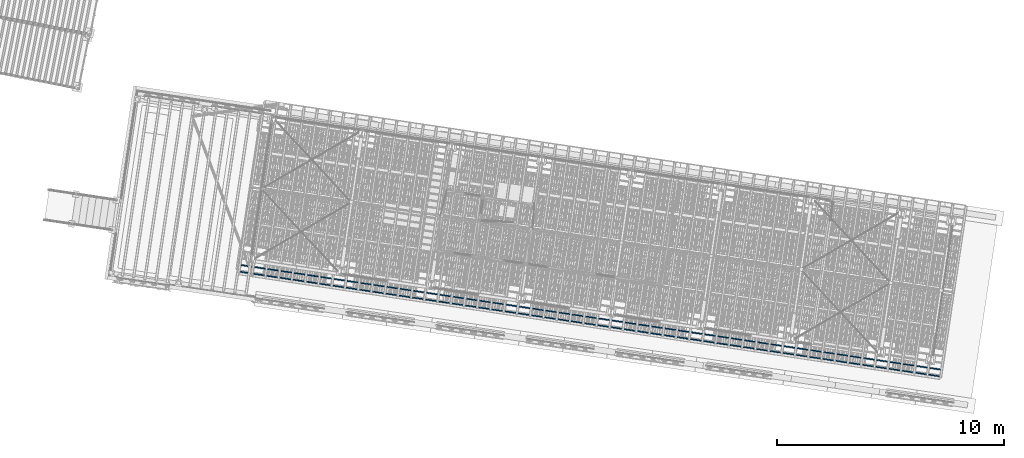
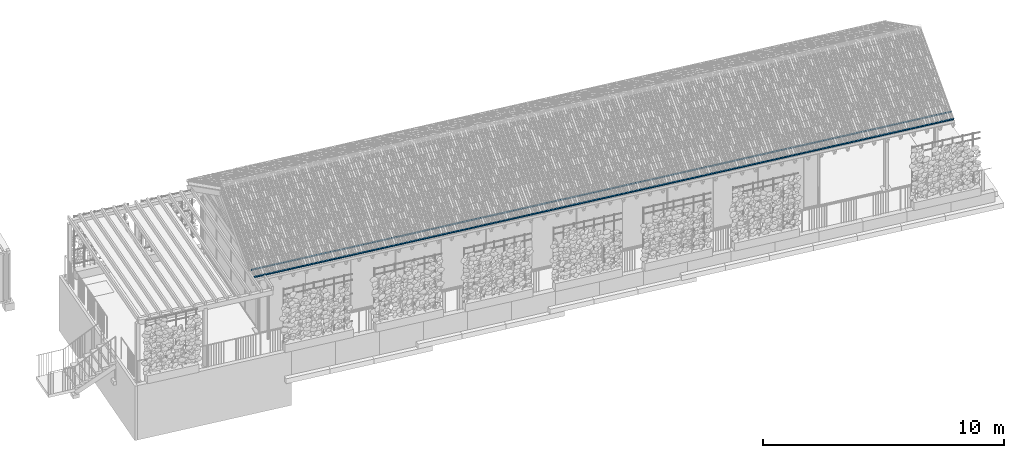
# One storey, part 72 of 128: 2 members, 1 element without a shape of its own.
"""IFC4 building model written with IfcOpenShell, lengths in metres."""

import ifcopenshell
import ifcopenshell.guid

model = None  # the IFC model being written
_history = None  # IfcOwnerHistory: only IFC2X3 demands one
_inside = {}  # id of a spatial element -> (the spatial element, [elements in it])
_under = {}  # id of a project, library or spatial element -> (it, [spatial elements below it])
_declared = {}  # id of a project -> (the project, [libraries it declares])
_typed = {}  # id of a type object -> (the type object, [elements of that type])
_made_of = {}  # id of a material, layer set ... -> (it, [elements and type objects made of it])


def new_model(schema):
    """Start an empty IFC model of exactly this schema.

    Asked for "IFC4X3", IfcOpenShell would pick the latest addendum, in which some entities
    have other attributes; the version numbers below select the first issue.
    IFC2X3 requires an IfcOwnerHistory on every rooted entity: one is made here for all.
    """
    global model, _history
    if schema == "IFC4X3":
        model = ifcopenshell.file(schema_version=(4, 3, 0, 0))
    else:
        model = ifcopenshell.file(schema=schema)
    _inside.clear()
    _under.clear()
    _declared.clear()
    _typed.clear()
    _made_of.clear()
    _history = None
    if model.schema == "IFC2X3":
        org = make("IfcOrganization", Name="unknown")
        user = make(
            "IfcPersonAndOrganization",
            ThePerson=make("IfcPerson", FamilyName="unknown"),
            TheOrganization=org,
        )
        app = make(
            "IfcApplication",
            ApplicationDeveloper=org,
            Version="unknown",
            ApplicationFullName="unknown",
            ApplicationIdentifier="unknown",
        )
        _history = make(
            "IfcOwnerHistory",
            OwningUser=user,
            OwningApplication=app,
            ChangeAction="ADDED",
            CreationDate=0,
        )
    return model


def make(cls, **values):
    """One entity of the class cls with the attributes given. An attribute that is None is left unset."""
    return model.create_entity(
        cls, **{name: value for name, value in values.items() if value is not None}
    )


def rooted(cls, **values):
    """An entity with a GlobalId (a new one), such as an element, a storey or a relation."""
    return make(cls, GlobalId=ifcopenshell.guid.new(), OwnerHistory=_history, **values)


def si_unit(unit_type, name, prefix=None):
    """IfcSIUnit, for example si_unit("LENGTHUNIT", "METRE", prefix="MILLI")."""
    return make("IfcSIUnit", UnitType=unit_type, Prefix=prefix, Name=name)


def assignment(units):
    """IfcUnitAssignment: the units of a project."""
    return None if units is None else make("IfcUnitAssignment", Units=units)


def point(xyz):
    """IfcCartesianPoint."""
    return None if xyz is None else make("IfcCartesianPoint", Coordinates=xyz)


def direction(xyz):
    """IfcDirection."""
    return None if xyz is None else make("IfcDirection", DirectionRatios=xyz)


def frame(location, z_axis=None, x_axis=None):
    """IfcAxis2Placement3D, a coordinate frame: its origin and axes. An axis left out is left unset."""
    return make(
        "IfcAxis2Placement3D",
        Location=point(location),
        Axis=direction(z_axis),
        RefDirection=direction(x_axis),
    )


def origin_with_axes():
    """The frame at (0, 0, 0) with the z axis (0, 0, 1) and the x axis (1, 0, 0) written out."""
    return frame((0.0, 0.0, 0.0), z_axis=(0.0, 0.0, 1.0), x_axis=(1.0, 0.0, 0.0))


def place(relative_to, where):
    """IfcLocalPlacement: puts the frame where relative to a parent placement (None: the world)."""
    return make(
        "IfcLocalPlacement", PlacementRelTo=relative_to, RelativePlacement=where
    )


def context(
    kind, dimensions, precision=None, world=None, true_north=None, identifier=None
):
    """IfcGeometricRepresentationContext, for example the 3D "Model" context."""
    return make(
        "IfcGeometricRepresentationContext",
        ContextIdentifier=identifier,
        ContextType=kind,
        CoordinateSpaceDimension=dimensions,
        Precision=precision,
        WorldCoordinateSystem=world,
        TrueNorth=true_north,
    )


def subcontext(parent, identifier, kind, view, scale=None):
    """IfcGeometricRepresentationSubContext, for example "Body" below "Model"."""
    return make(
        "IfcGeometricRepresentationSubContext",
        ContextIdentifier=identifier,
        ContextType=kind,
        ParentContext=parent,
        TargetScale=scale,
        TargetView=view,
    )


def project(units=None, contexts=None):
    """IfcProject with its units and contexts."""
    return rooted(
        "IfcProject",
        Name="project",
        RepresentationContexts=contexts,
        UnitsInContext=assignment(units),
    )


def spatial(cls, under=None, at=None, **own):
    """A site, building, storey or space (cls), placed at a placement, below another one or the project."""
    s = rooted(cls, ObjectPlacement=at, **own)
    if under is not None:
        _under.setdefault(under.id(), (under, []))[1].append(s)
    return s


def profile(cls, at=None, kind="AREA", **sizes):
    """A parametric profile (cls). Its sizes go by their IFC names, for example OverallWidth=200.0."""
    return make(cls, ProfileType=kind, Position=at, **sizes)


def rectangle(**sizes):
    """IfcRectangleProfileDef."""
    return profile("IfcRectangleProfileDef", **sizes)


def extrude(swept, where, along, depth):
    """IfcExtrudedAreaSolid: the profile swept, set in the frame where, extruded along a direction by depth."""
    return make(
        "IfcExtrudedAreaSolid",
        SweptArea=swept,
        Position=where,
        ExtrudedDirection=direction(along),
        Depth=depth,
    )


def shape(context_of_items, identifier, shape_type, items):
    """IfcShapeRepresentation: the items that make up one representation, for example the "Body"."""
    return make(
        "IfcShapeRepresentation",
        ContextOfItems=context_of_items,
        RepresentationIdentifier=identifier,
        RepresentationType=shape_type,
        Items=items,
    )


def material(Name=None, Category=None):
    """IfcMaterial."""
    return make("IfcMaterial", Name=Name, Category=Category)


def material_profile(
    of_material, cross_section, Name=None, Category=None, Priority=None
):
    """IfcMaterialProfile: a cross section and its material."""
    return make(
        "IfcMaterialProfile",
        Name=Name,
        Material=of_material,
        Profile=cross_section,
        Priority=Priority,
        Category=Category,
    )


def profile_set(profiles, Name=None, composite=None):
    """IfcMaterialProfileSet."""
    return make(
        "IfcMaterialProfileSet",
        Name=Name,
        MaterialProfiles=profiles,
        CompositeProfile=composite,
    )


def profile_usage(for_profile_set, cardinal=None, extent=None):
    """IfcMaterialProfileSetUsage: how a profile set lies along its element."""
    return make(
        "IfcMaterialProfileSetUsage",
        ForProfileSet=for_profile_set,
        CardinalPoint=cardinal,
        ReferenceExtent=extent,
    )


def made_of(thing, what):
    """Note that an element or type object is made of a material, layer set ...; save() writes the relation."""
    if what is not None:
        _made_of.setdefault(what.id(), (what, []))[1].append(thing)
    return thing


def type_object(cls, material=None, **own):
    """A type object (cls), such as IfcWallType, which elements share."""
    return made_of(rooted(cls, **own), material)


def element(
    cls,
    number,
    at=None,
    inside=None,
    cuts=None,
    type_object=None,
    material=None,
    context=None,
    identifier="Body",
    shape_type=None,
    held_by="IfcProductDefinitionShape",
    body=None,
    shapes=None,
    **own,
):
    """One element of the class cls, such as IfcWall. Its Tag is "e" and its number.

    at: its placement. inside: the storey or other place that contains it. cuts: it is an
    opening in that element (IfcRelVoidsElement). A single representation is given by context,
    identifier, shape_type and body (its items); several are given by shapes. held_by: the class
    of the entity that holds the representations. save() writes the other relations.
    """
    e = rooted(cls, Tag="e%d" % number, ObjectPlacement=at, **own)
    if body is not None:
        shapes = [shape(context, identifier, shape_type, body)]
    if shapes is not None:
        e.Representation = make(held_by, Representations=shapes)
    if inside is not None:
        _inside.setdefault(inside.id(), (inside, []))[1].append(e)
    if cuts is not None:
        rooted(
            "IfcRelVoidsElement", RelatingBuildingElement=cuts, RelatedOpeningElement=e
        )
    if type_object is not None:
        _typed.setdefault(type_object.id(), (type_object, []))[1].append(e)
    return made_of(e, material)


def aggregate(whole, parts):
    """IfcRelAggregates: a whole, such as a stair, and the parts it consists of."""
    return rooted("IfcRelAggregates", RelatingObject=whole, RelatedObjects=parts)


def save(model, path):
    """Write the relations noted so far, then the file.

    IfcRelAggregates (storeys below a building ...), IfcRelContainedInSpatialStructure (elements
    in a storey), IfcRelDefinesByType, IfcRelAssociatesMaterial and IfcRelDeclares: one each for
    every whole, place, type object, material and project.
    """
    for whole, parts in _under.values():
        aggregate(whole, parts)
    for where, things in _inside.values():
        rooted(
            "IfcRelContainedInSpatialStructure",
            RelatedElements=things,
            RelatingStructure=where,
        )
    for kind, things in _typed.values():
        rooted("IfcRelDefinesByType", RelatedObjects=things, RelatingType=kind)
    for what, things in _made_of.values():
        rooted("IfcRelAssociatesMaterial", RelatedObjects=things, RelatingMaterial=what)
    for by, libraries in _declared.values():
        rooted("IfcRelDeclares", RelatingContext=by, RelatedDefinitions=libraries)
    model.write(path)


model = new_model("IFC4")

# Units and contexts
model_context = context("Model", 3, precision=1e-05, world=origin_with_axes(), true_north=direction((0.0, 1.0)))
body_context = subcontext(model_context, "Body", "Model", "MODEL_VIEW")
ifc_project = project(units=[si_unit("VOLUMEUNIT", "CUBIC_METRE"), si_unit("LENGTHUNIT", "METRE"), si_unit("AREAUNIT", "SQUARE_METRE")], contexts=[model_context])

# Site, building, storey
site_placement = place(None, origin_with_axes())
site = spatial("IfcSite", under=ifc_project, at=site_placement, Name="Lares · Rua das Mercês · artigo 4771")
building_placement = place(site_placement, frame((15.0, 9.7, 13.9), z_axis=(0.0, 0.0, 1.0), x_axis=(0.989015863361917, -0.147809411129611, 0.0)))
building = spatial("IfcBuilding", under=site, at=building_placement, Name="Casa Sobreposta")
storey_placement = place(building_placement, origin_with_axes())
storey = spatial("IfcBuildingStorey", under=building, at=storey_placement, Name="00 · Habitação e estacionamento", Elevation=13.9)

# Roof, members
ifc_material = material(Name="Madeira / Bauholz", Category="wood")
roof_placement = place(storey_placement, origin_with_axes())
roof = element("IfcRoof", 1, at=roof_placement, inside=storey, material=ifc_material, Name="Cobertura de telha · duas águas 30 graus", PredefinedType="GABLE_ROOF")
ifc_material_profile = material_profile(ifc_material, rectangle(XDim=0.045, YDim=0.06))
ifc_profile_set = profile_set([ifc_material_profile], Name="TIMBER0.045x0.060")
ifc_profile_usage_1 = profile_usage(ifc_profile_set)
member_type = type_object("IfcMemberType", Name="TIMBER0.045x0.060 / timber", PredefinedType="NOTDEFINED", material=ifc_profile_set)
member_1_placement = place(roof_placement, frame((-0.45, -0.55, 3.21645735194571), z_axis=(1.0, 0.0, 0.0), x_axis=(0.0, -1.0, 0.0)))
member_1 = element("IfcMember", 2, at=member_1_placement, type_object=member_type, material=ifc_profile_usage_1, Name="Cobertura · ripa ventilada", context=body_context, shape_type="SweptSolid", body=[
    extrude(rectangle(XDim=0.045, YDim=0.06), origin_with_axes(), (0.0, 0.0, 1.0), 31.22),
])
ifc_profile_usage_2 = profile_usage(ifc_profile_set)
member_2_placement = place(roof_placement, frame((-0.45, -0.25, 3.38966243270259), z_axis=(1.0, 0.0, 0.0), x_axis=(0.0, -1.0, 0.0)))
member_2 = element("IfcMember", 3, at=member_2_placement, type_object=member_type, material=ifc_profile_usage_2, Name="Cobertura · ripa ventilada", context=body_context, shape_type="SweptSolid", body=[
    extrude(rectangle(XDim=0.045, YDim=0.06), origin_with_axes(), (0.0, 0.0, 1.0), 31.22),
])
aggregate(roof, [member_1, member_2])

save(model, "model.ifc")
